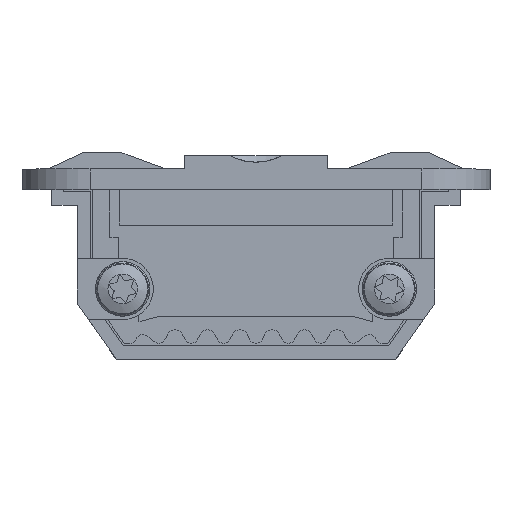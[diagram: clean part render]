
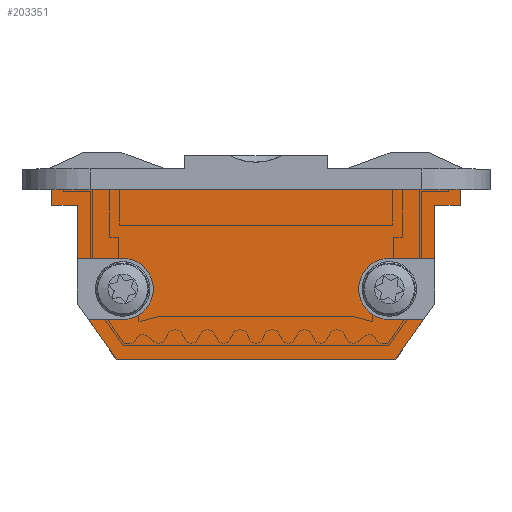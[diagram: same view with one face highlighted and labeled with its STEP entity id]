
A CAD part, top view. The second image highlights one B-rep face of the part: STEP entity #203351.
In plain terms, the highlighted planar face has unit normal (0, 0, 1) as drawn and (0, -1, 0) by its records, which use the part's own axes.
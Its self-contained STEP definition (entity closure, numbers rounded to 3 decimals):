
#199926=CARTESIAN_POINT(' ',(-15.,0.,1.8));
#199927=VERTEX_POINT(' ',#199926);
#199941=CARTESIAN_POINT(' ',(15.,0.,1.8));
#199946=DIRECTION(' ',(-1.,0.,0.));
#199951=VECTOR(' ',#199946,1.);
#199956=LINE('',#199941,#199951);
#199961=CARTESIAN_POINT(' ',(15.,0.,1.8));
#199962=VERTEX_POINT(' ',#199961);
#199966=EDGE_CURVE(' ',#199962,#199927,#199956,.T.);
#202751=CARTESIAN_POINT(' ',(-15.,0.,0.65));
#202752=VERTEX_POINT(' ',#202751);
#202766=CARTESIAN_POINT(' ',(-15.,0.,0.65));
#202771=DIRECTION(' ',(0.,0.,1.));
#202776=VECTOR(' ',#202771,1.);
#202781=LINE('',#202766,#202776);
#202786=EDGE_CURVE(' ',#202752,#199927,#202781,.T.);
#202811=DIRECTION(' ',(-0.,-1.,-0.));
#202816=CARTESIAN_POINT(' ',(-15.,0.,-10.65));
#202821=DIRECTION(' ',(1.,0.,-0.));
#202826=AXIS2_PLACEMENT_3D(' ',#202816,#202811,#202821);
#202831=PLANE('',#202826);
#202836=CARTESIAN_POINT(' ',(15.,0.,0.65));
#202841=DIRECTION(' ',(0.,0.,1.));
#202846=VECTOR(' ',#202841,1.);
#202851=LINE('',#202836,#202846);
#202856=CARTESIAN_POINT(' ',(15.,0.,0.65));
#202857=VERTEX_POINT(' ',#202856);
#202861=EDGE_CURVE(' ',#202857,#199962,#202851,.T.);
#202866=ORIENTED_EDGE(' ',*,*,#202861,.T.);
#202871=ORIENTED_EDGE(' ',*,*,#199966,.T.);
#202876=ORIENTED_EDGE(' ',*,*,#202786,.F.);
#202881=CARTESIAN_POINT(' ',(-13.15,0.,0.65));
#202886=DIRECTION(' ',(-1.,0.,0.));
#202891=VECTOR(' ',#202886,1.);
#202896=LINE('',#202881,#202891);
#202901=CARTESIAN_POINT(' ',(-13.15,0.,0.65));
#202902=VERTEX_POINT(' ',#202901);
#202906=EDGE_CURVE(' ',#202902,#202752,#202896,.T.);
#202911=ORIENTED_EDGE(' ',*,*,#202906,.F.);
#202916=CARTESIAN_POINT(' ',(-13.15,0.,0.65));
#202921=DIRECTION(' ',(0.,0.,-1.));
#202926=VECTOR(' ',#202921,1.);
#202931=LINE('',#202916,#202926);
#202936=CARTESIAN_POINT(' ',(-13.15,0.,-3.25));
#202937=VERTEX_POINT(' ',#202936);
#202941=EDGE_CURVE(' ',#202902,#202937,#202931,.T.);
#202946=ORIENTED_EDGE(' ',*,*,#202941,.T.);
#202951=CARTESIAN_POINT(' ',(-13.15,0.,-3.25));
#202956=DIRECTION(' ',(1.,0.,0.));
#202961=VECTOR(' ',#202956,1.);
#202966=LINE('',#202951,#202961);
#202971=CARTESIAN_POINT(' ',(-9.8,0.,-3.25));
#202972=VERTEX_POINT(' ',#202971);
#202976=EDGE_CURVE(' ',#202937,#202972,#202966,.T.);
#202981=ORIENTED_EDGE(' ',*,*,#202976,.T.);
#202986=CARTESIAN_POINT(' ',(-9.8,0.,-5.5));
#202991=DIRECTION(' ',(0.,1.,0.));
#202996=DIRECTION(' ',(0.,0.,1.));
#203001=AXIS2_PLACEMENT_3D(' ',#202986,#202991,#202996);
#203006=CIRCLE('',#203001,2.25);
#203011=CARTESIAN_POINT(' ',(-9.8,0.,-7.75));
#203012=VERTEX_POINT(' ',#203011);
#203016=EDGE_CURVE(' ',#202972,#203012,#203006,.T.);
#203021=ORIENTED_EDGE(' ',*,*,#203016,.T.);
#203026=CARTESIAN_POINT(' ',(-9.8,0.,-7.75));
#203031=DIRECTION(' ',(-1.,0.,0.));
#203036=VECTOR(' ',#203031,1.);
#203041=LINE('',#203026,#203036);
#203046=CARTESIAN_POINT(' ',(-12.314,0.,-7.75));
#203047=VERTEX_POINT(' ',#203046);
#203051=EDGE_CURVE(' ',#203012,#203047,#203041,.T.);
#203056=ORIENTED_EDGE(' ',*,*,#203051,.T.);
#203061=CARTESIAN_POINT(' ',(-12.314,0.,-7.75));
#203066=DIRECTION(' ',(0.574,0.,-0.819));
#203071=VECTOR(' ',#203066,1.);
#203076=LINE('',#203061,#203071);
#203081=CARTESIAN_POINT(' ',(-10.284,0.,-10.65));
#203082=VERTEX_POINT(' ',#203081);
#203086=EDGE_CURVE(' ',#203047,#203082,#203076,.T.);
#203091=ORIENTED_EDGE(' ',*,*,#203086,.T.);
#203096=CARTESIAN_POINT(' ',(-10.284,0.,-10.65));
#203101=DIRECTION(' ',(1.,0.,0.));
#203106=VECTOR(' ',#203101,1.);
#203111=LINE('',#203096,#203106);
#203116=CARTESIAN_POINT(' ',(10.284,0.,-10.65));
#203117=VERTEX_POINT(' ',#203116);
#203121=EDGE_CURVE(' ',#203082,#203117,#203111,.T.);
#203126=ORIENTED_EDGE(' ',*,*,#203121,.T.);
#203131=CARTESIAN_POINT(' ',(10.284,0.,-10.65));
#203136=DIRECTION(' ',(0.574,0.,0.819));
#203141=VECTOR(' ',#203136,1.);
#203146=LINE('',#203131,#203141);
#203151=CARTESIAN_POINT(' ',(12.314,0.,-7.75));
#203152=VERTEX_POINT(' ',#203151);
#203156=EDGE_CURVE(' ',#203117,#203152,#203146,.T.);
#203161=ORIENTED_EDGE(' ',*,*,#203156,.T.);
#203166=CARTESIAN_POINT(' ',(12.314,0.,-7.75));
#203171=DIRECTION(' ',(-1.,0.,0.));
#203176=VECTOR(' ',#203171,1.);
#203181=LINE('',#203166,#203176);
#203186=CARTESIAN_POINT(' ',(9.8,0.,-7.75));
#203187=VERTEX_POINT(' ',#203186);
#203191=EDGE_CURVE(' ',#203152,#203187,#203181,.T.);
#203196=ORIENTED_EDGE(' ',*,*,#203191,.T.);
#203201=CARTESIAN_POINT(' ',(9.8,0.,-5.5));
#203206=DIRECTION(' ',(-0.,1.,0.));
#203211=DIRECTION(' ',(0.,0.,-1.));
#203216=AXIS2_PLACEMENT_3D(' ',#203201,#203206,#203211);
#203221=CIRCLE('',#203216,2.25);
#203226=CARTESIAN_POINT(' ',(9.8,0.,-3.25));
#203227=VERTEX_POINT(' ',#203226);
#203231=EDGE_CURVE(' ',#203187,#203227,#203221,.T.);
#203236=ORIENTED_EDGE(' ',*,*,#203231,.T.);
#203241=CARTESIAN_POINT(' ',(9.8,0.,-3.25));
#203246=DIRECTION(' ',(1.,0.,0.));
#203251=VECTOR(' ',#203246,1.);
#203256=LINE('',#203241,#203251);
#203261=CARTESIAN_POINT(' ',(13.15,0.,-3.25));
#203262=VERTEX_POINT(' ',#203261);
#203266=EDGE_CURVE(' ',#203227,#203262,#203256,.T.);
#203271=ORIENTED_EDGE(' ',*,*,#203266,.T.);
#203276=CARTESIAN_POINT(' ',(13.15,0.,-3.25));
#203281=DIRECTION(' ',(0.,0.,1.));
#203286=VECTOR(' ',#203281,1.);
#203291=LINE('',#203276,#203286);
#203296=CARTESIAN_POINT(' ',(13.15,0.,0.65));
#203297=VERTEX_POINT(' ',#203296);
#203301=EDGE_CURVE(' ',#203262,#203297,#203291,.T.);
#203306=ORIENTED_EDGE(' ',*,*,#203301,.T.);
#203311=CARTESIAN_POINT(' ',(13.15,0.,0.65));
#203316=DIRECTION(' ',(1.,0.,0.));
#203321=VECTOR(' ',#203316,1.);
#203326=LINE('',#203311,#203321);
#203331=EDGE_CURVE(' ',#203297,#202857,#203326,.T.);
#203336=ORIENTED_EDGE(' ',*,*,#203331,.T.);
#203341=EDGE_LOOP(' ',(#202866,#202871,#202876,#202911,#202946,#202981,#203021,#203056,#203091,#203126,#203161,#203196,#203236,#203271,#203306,#203336));
#203346=FACE_OUTER_BOUND(' ',#203341,.T.);
#203351=ADVANCED_FACE('',(#203346),#202831,.T.);
